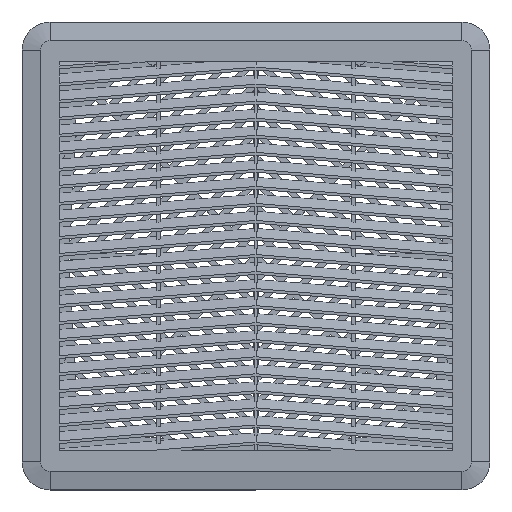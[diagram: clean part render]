
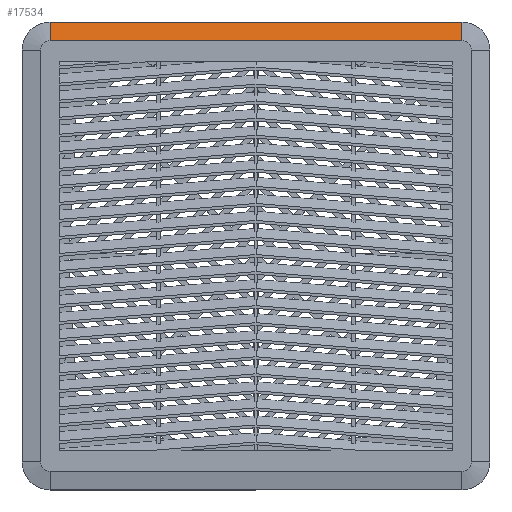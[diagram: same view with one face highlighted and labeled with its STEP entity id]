
A CAD part, top view. The second image highlights one B-rep face of the part: STEP entity #17534.
In plain terms, the highlighted planar face has unit normal (0, 0.208, 0.978).
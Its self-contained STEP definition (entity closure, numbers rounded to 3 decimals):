
#4293 = VERTEX_POINT ( 'NONE', #11075 ) ;
#4786 = VERTEX_POINT ( 'NONE', #11533 ) ;
#9098 = EDGE_CURVE ( 'NONE', #14081, #4786, #25494, .T. ) ;
#9099 = EDGE_CURVE ( 'NONE', #4293, #13894, #25496, .T. ) ;
#11075 = CARTESIAN_POINT ( 'NONE',  ( 110., 125., 5.874 ) ) ;
#11533 = CARTESIAN_POINT ( 'NONE',  ( -110., 125., 5.874 ) ) ;
#12074 = EDGE_LOOP ( 'NONE', ( #22441, #22442, #22443, #22444 ) ) ;
#13231 = CARTESIAN_POINT ( 'NONE',  ( 110., 115., 8. ) ) ;
#13418 = CARTESIAN_POINT ( 'NONE',  ( -110., 115., 8. ) ) ;
#13894 = VERTEX_POINT ( 'NONE', #13231 ) ;
#14081 = VERTEX_POINT ( 'NONE', #13418 ) ;
#17534 = ADVANCED_FACE ( 'NONE', ( #28427 ), #35587, .T. ) ;
#19126 = EDGE_CURVE ( 'NONE', #13894, #14081, #27601, .T. ) ;
#19133 = EDGE_CURVE ( 'NONE', #4786, #4293, #27611, .T. ) ;
#20380 = CARTESIAN_POINT ( 'NONE',  ( -110., 115., 8. ) ) ;
#20382 = CARTESIAN_POINT ( 'NONE',  ( 110., 125., 5.874 ) ) ;
#20385 = DIRECTION ( 'NONE',  ( 0., 0.978, -0.208 ) ) ;
#20387 = DIRECTION ( 'NONE',  ( 0., -0.978, 0.208 ) ) ;
#22441 = ORIENTED_EDGE ( 'NONE', *, *, #9099, .F. ) ;
#22442 = ORIENTED_EDGE ( 'NONE', *, *, #19133, .F. ) ;
#22443 = ORIENTED_EDGE ( 'NONE', *, *, #9098, .F. ) ;
#22444 = ORIENTED_EDGE ( 'NONE', *, *, #19126, .F. ) ;
#25494 = LINE ( 'NONE', #20380, #25499 ) ;
#25496 = LINE ( 'NONE', #20382, #25501 ) ;
#25499 = VECTOR ( 'NONE', #20385, 1000. ) ;
#25501 = VECTOR ( 'NONE', #20387, 1000. ) ;
#27601 = LINE ( 'NONE', #32433, #27603 ) ;
#27603 = VECTOR ( 'NONE', #32425, 1000. ) ;
#27611 = LINE ( 'NONE', #32455, #27614 ) ;
#27614 = VECTOR ( 'NONE', #32456, 1000. ) ;
#28427 = FACE_OUTER_BOUND ( 'NONE', #12074, .T. ) ;
#32425 = DIRECTION ( 'NONE',  ( -1., 0., 0. ) ) ;
#32433 = CARTESIAN_POINT ( 'NONE',  ( -110., 115., 8. ) ) ;
#32455 = CARTESIAN_POINT ( 'NONE',  ( 110., 125., 5.874 ) ) ;
#32456 = DIRECTION ( 'NONE',  ( 1., 0., 0. ) ) ;
#35101 = AXIS2_PLACEMENT_3D ( 'NONE', #35585, #35589, #35590 ) ;
#35585 = CARTESIAN_POINT ( 'NONE',  ( 0., 115., 8. ) ) ;
#35587 = PLANE ( 'NONE',  #35101 ) ;
#35589 = DIRECTION ( 'NONE',  ( 0., 0.208, 0.978 ) ) ;
#35590 = DIRECTION ( 'NONE',  ( 1., 0., 0. ) ) ;
